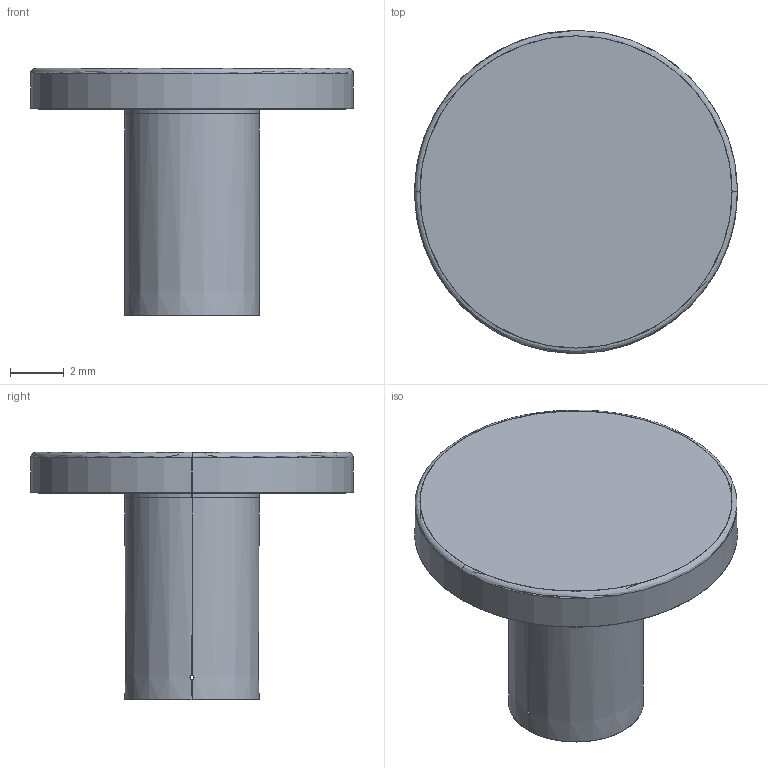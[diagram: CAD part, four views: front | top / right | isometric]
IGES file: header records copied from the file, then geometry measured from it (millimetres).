
Start section: SolidWorks IGES file using analytic representation for surfaces
Global section: file name: C:\Users\danielet\Desktop\ISMAIL\CORVUS\A3845-CORVUS-3D\A3845-CORVUS-3D.IGS; native system: SolidWorks 2018; preprocessor: SolidWorks 2018; author: danielet; date: 230308.134826; units: millimetre
Bounding box: 12 x 12 x 9.2 mm (x, y, z)
Surface area: 747.4 mm2 (no closed solid volume)
Topology: 0 solids, 0 shells, 36 faces, 744 edges, 744 vertices
Faces by surface type: revolution 24, bspline 12
